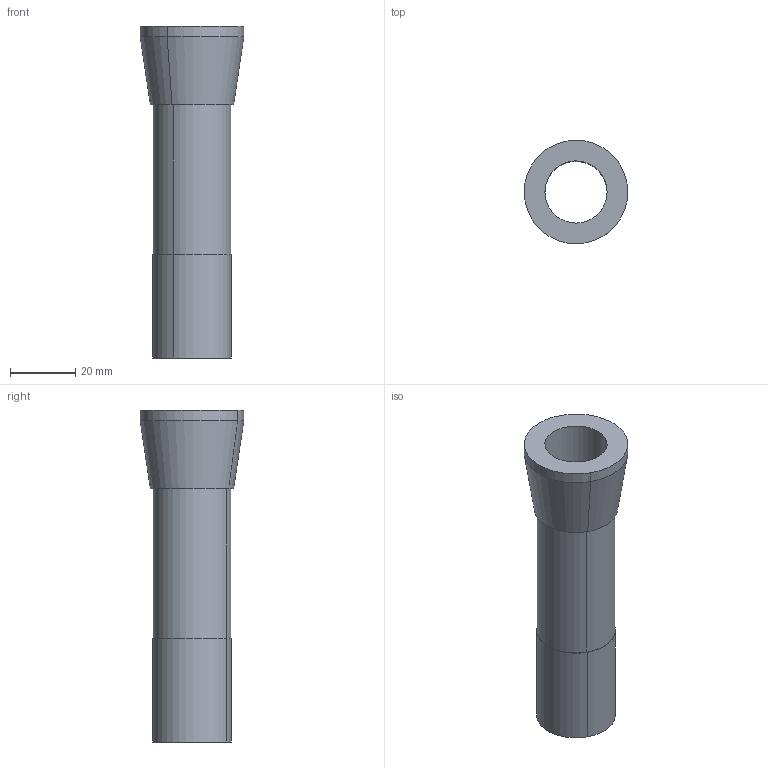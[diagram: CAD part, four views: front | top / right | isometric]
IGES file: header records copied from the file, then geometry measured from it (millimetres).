
Start section: START RECORD GO HERE.
Global section: file name: R8_collet.igs; native system: IBM CATIA IGES - CATIA Version 5 Release 18 ; preprocessor: CATIA Version 5 Release 18 ; author: Barry; organization: win764bit; date: 20170723.073321; units: millimetre
Bounding box: 31.74 x 31.74 x 101.6 mm (x, y, z)
Surface area: 14890.5 mm2 (no closed solid volume)
Topology: 0 solids, 0 shells, 14 faces, 56 edges, 56 vertices
Faces by surface type: revolution 10, plane 4
